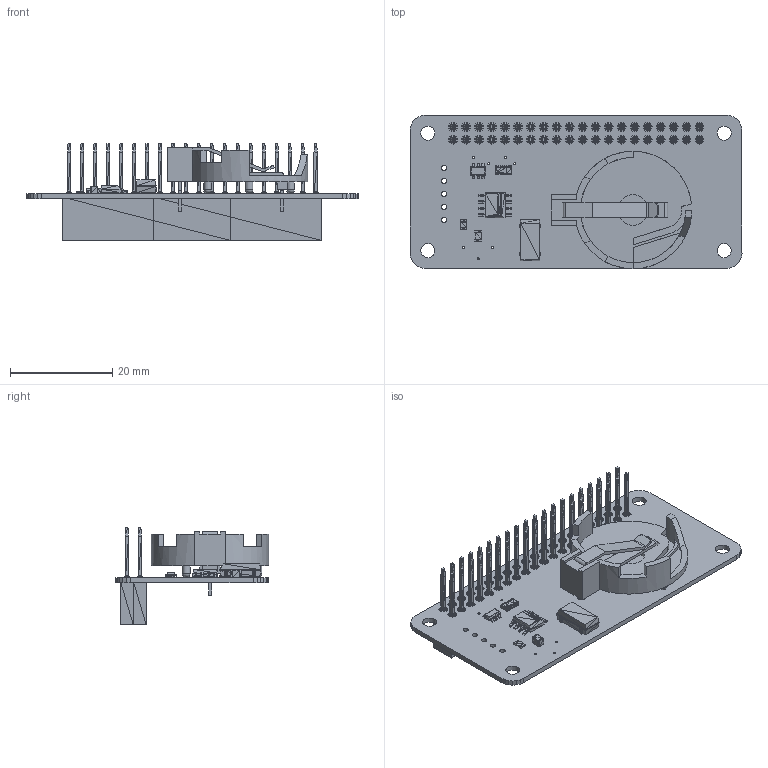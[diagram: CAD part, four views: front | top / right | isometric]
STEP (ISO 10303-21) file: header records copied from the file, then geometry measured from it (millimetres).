
FILE_DESCRIPTION(/* description */ (''),/* implementation_level */ '2;1');
FILE_NAME(/* name */ 'C:/Users/andrew/Desktop/3D Models/rtc-pi-3.0.step',/* time_stamp */ '2018-02-10T15:34:47+00:00',/* author */ ('and101'),/* organization */ (''),/* preprocessor_version */ 'ST-DEVELOPER v16.13',/* originating_system */ 'Autodesk Translation Framework v6.5.0.72',/* authorisation */ '');
FILE_SCHEMA (('AUTOMOTIVE_DESIGN { 1 0 10303 214 3 1 1 }'));
Products named in the file (10): rtc-pi-3.0; Board_rtc-pi-3; bs-3; sot23-6; cap_0805; res_0805; rescav-8_1.6x3.2x0; soic-8_150mil; 40_way_header; dso-4n
Assembly tree (9 placements, depth 2):
  rtc-pi-3.0
    Board_rtc-pi-3
    bs-3
    sot23-6
    cap_0805
    res_0805
    rescav-8_1.6x3.2x0
    soic-8_150mil
    40_way_header
    dso-4n
Bounding box: 65 x 30.07 x 18.97 mm (x, y, z)
Volume: 5811.6 mm3; surface area: 10873 mm2
Topology: 133 solids, 133 shells, 26288 faces, 39862 edges, 13836 vertices
Faces by surface type: plane 26154, cylinder 95, bspline 39
Full cylindrical faces by diameter (mm): 0.406 x7, 1 x45, 1.1 x2, 1.55 x3, 2.75 x4, 6 x1
Entity records: 520309 total; most frequent: DIRECTION 92648, CARTESIAN_POINT 81731, ORIENTED_EDGE 79708, EDGE_CURVE 39854, LINE 39438, VECTOR 39438, AXIS2_PLACEMENT_3D 26605, EDGE_LOOP 26410
